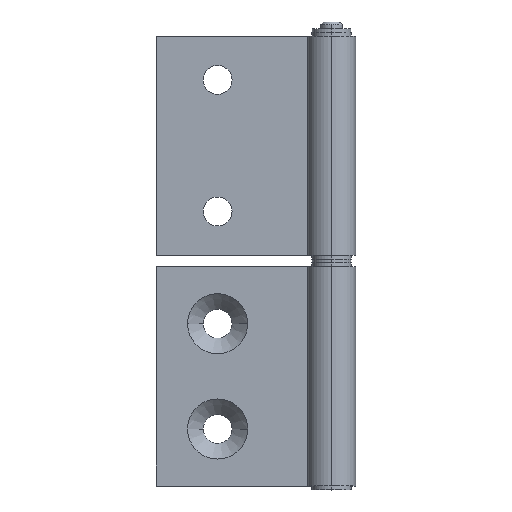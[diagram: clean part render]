
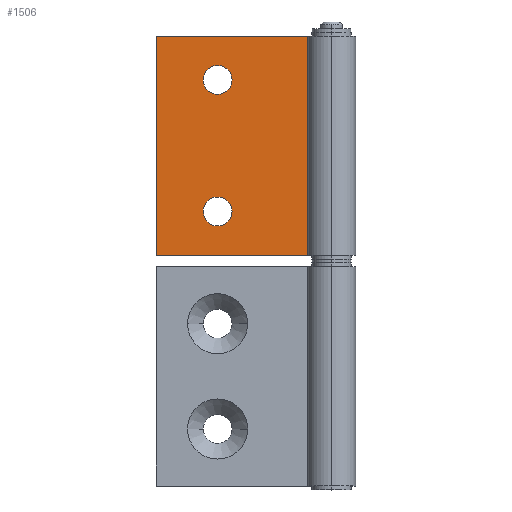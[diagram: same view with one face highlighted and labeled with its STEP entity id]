
A CAD part, top view. The second image highlights one B-rep face of the part: STEP entity #1506.
In plain terms, the highlighted planar face has unit normal (0, 0, 1).
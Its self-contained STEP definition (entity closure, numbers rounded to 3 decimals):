
#13 = PLANE ( 'NONE',  #1313 ) ;
#37 = LINE ( 'NONE', #583, #1414 ) ;
#58 = CARTESIAN_POINT ( 'NONE',  ( 10.7, -40., 4.5 ) ) ;
#90 = LINE ( 'NONE', #867, #463 ) ;
#131 = LINE ( 'NONE', #510, #1231 ) ;
#145 = LINE ( 'NONE', #790, #831 ) ;
#170 = ORIENTED_EDGE ( 'NONE', *, *, #1062, .F. ) ;
#174 = EDGE_LOOP ( 'NONE', ( #862, #1072 ) ) ;
#189 = VERTEX_POINT ( 'NONE', #677 ) ;
#192 = CARTESIAN_POINT ( 'NONE',  ( 14., -10., 4.5 ) ) ;
#216 = ORIENTED_EDGE ( 'NONE', *, *, #306, .T. ) ;
#252 = EDGE_CURVE ( 'NONE', #189, #706, #556, .T. ) ;
#258 = DIRECTION ( 'NONE',  ( 0., 0., -1. ) ) ;
#272 = DIRECTION ( 'NONE',  ( -1., 0., 0. ) ) ;
#293 = DIRECTION ( 'NONE',  ( 0., 0., 1. ) ) ;
#306 = EDGE_CURVE ( 'NONE', #1412, #1511, #145, .T. ) ;
#308 = CARTESIAN_POINT ( 'NONE',  ( 17.3, -40., 4.5 ) ) ;
#346 = AXIS2_PLACEMENT_3D ( 'NONE', #1670, #1553, #409 ) ;
#361 = EDGE_CURVE ( 'NONE', #714, #1122, #37, .T. ) ;
#382 = CARTESIAN_POINT ( 'NONE',  ( 17.3, -10., 4.5 ) ) ;
#409 = DIRECTION ( 'NONE',  ( -1., 0., 0. ) ) ;
#431 = DIRECTION ( 'NONE',  ( -1., 0., 0. ) ) ;
#438 = VERTEX_POINT ( 'NONE', #308 ) ;
#452 = DIRECTION ( 'NONE',  ( -1., 0., 0. ) ) ;
#463 = VECTOR ( 'NONE', #1375, 1000. ) ;
#510 = CARTESIAN_POINT ( 'NONE',  ( 0., -50., 4.5 ) ) ;
#528 = CIRCLE ( 'NONE', #1106, 3.3 ) ;
#535 = DIRECTION ( 'NONE',  ( -1., 0., 0. ) ) ;
#556 = CIRCLE ( 'NONE', #1494, 3.3 ) ;
#560 = EDGE_LOOP ( 'NONE', ( #216, #170, #694, #1602 ) ) ;
#583 = CARTESIAN_POINT ( 'NONE',  ( 0., -50., 4.5 ) ) ;
#661 = FACE_BOUND ( 'NONE', #1040, .T. ) ;
#677 = CARTESIAN_POINT ( 'NONE',  ( 10.7, -10., 4.5 ) ) ;
#694 = ORIENTED_EDGE ( 'NONE', *, *, #361, .F. ) ;
#701 = DIRECTION ( 'NONE',  ( 0., 0., -1. ) ) ;
#706 = VERTEX_POINT ( 'NONE', #382 ) ;
#714 = VERTEX_POINT ( 'NONE', #1174 ) ;
#743 = EDGE_CURVE ( 'NONE', #438, #1660, #528, .T. ) ;
#790 = CARTESIAN_POINT ( 'NONE',  ( 0., 0., 4.5 ) ) ;
#814 = CARTESIAN_POINT ( 'NONE',  ( 14., -40., 4.5 ) ) ;
#831 = VECTOR ( 'NONE', #1478, 1000. ) ;
#862 = ORIENTED_EDGE ( 'NONE', *, *, #743, .T. ) ;
#867 = CARTESIAN_POINT ( 'NONE',  ( 34.592, -50., 4.5 ) ) ;
#882 = CARTESIAN_POINT ( 'NONE',  ( 34.592, 0., 4.5 ) ) ;
#921 = CARTESIAN_POINT ( 'NONE',  ( 14., -40., 4.5 ) ) ;
#926 = EDGE_CURVE ( 'NONE', #1660, #438, #1357, .T. ) ;
#961 = ORIENTED_EDGE ( 'NONE', *, *, #252, .T. ) ;
#1008 = EDGE_CURVE ( 'NONE', #714, #1412, #90, .T. ) ;
#1040 = EDGE_LOOP ( 'NONE', ( #1541, #961 ) ) ;
#1058 = AXIS2_PLACEMENT_3D ( 'NONE', #814, #1575, #431 ) ;
#1062 = EDGE_CURVE ( 'NONE', #1122, #1511, #131, .T. ) ;
#1072 = ORIENTED_EDGE ( 'NONE', *, *, #926, .T. ) ;
#1106 = AXIS2_PLACEMENT_3D ( 'NONE', #921, #258, #272 ) ;
#1122 = VERTEX_POINT ( 'NONE', #1426 ) ;
#1174 = CARTESIAN_POINT ( 'NONE',  ( 34.592, -50., 4.5 ) ) ;
#1190 = FACE_OUTER_BOUND ( 'NONE', #560, .T. ) ;
#1228 = DIRECTION ( 'NONE',  ( -1., 0., 0. ) ) ;
#1231 = VECTOR ( 'NONE', #1645, 1000. ) ;
#1313 = AXIS2_PLACEMENT_3D ( 'NONE', #1538, #293, #535 ) ;
#1321 = EDGE_CURVE ( 'NONE', #706, #189, #1665, .T. ) ;
#1357 = CIRCLE ( 'NONE', #1058, 3.3 ) ;
#1375 = DIRECTION ( 'NONE',  ( 0., 1., 0. ) ) ;
#1408 = CARTESIAN_POINT ( 'NONE',  ( 0., 0., 4.5 ) ) ;
#1412 = VERTEX_POINT ( 'NONE', #882 ) ;
#1414 = VECTOR ( 'NONE', #452, 1000. ) ;
#1425 = FACE_BOUND ( 'NONE', #174, .T. ) ;
#1426 = CARTESIAN_POINT ( 'NONE',  ( 0., -50., 4.5 ) ) ;
#1478 = DIRECTION ( 'NONE',  ( -1., 0., 0. ) ) ;
#1494 = AXIS2_PLACEMENT_3D ( 'NONE', #192, #701, #1228 ) ;
#1506 = ADVANCED_FACE ( 'NONE', ( #1425, #661, #1190 ), #13, .T. ) ;
#1511 = VERTEX_POINT ( 'NONE', #1408 ) ;
#1538 = CARTESIAN_POINT ( 'NONE',  ( 0., -50., 4.5 ) ) ;
#1541 = ORIENTED_EDGE ( 'NONE', *, *, #1321, .T. ) ;
#1553 = DIRECTION ( 'NONE',  ( 0., 0., -1. ) ) ;
#1575 = DIRECTION ( 'NONE',  ( 0., 0., -1. ) ) ;
#1602 = ORIENTED_EDGE ( 'NONE', *, *, #1008, .T. ) ;
#1645 = DIRECTION ( 'NONE',  ( 0., 1., 0. ) ) ;
#1660 = VERTEX_POINT ( 'NONE', #58 ) ;
#1665 = CIRCLE ( 'NONE', #346, 3.3 ) ;
#1670 = CARTESIAN_POINT ( 'NONE',  ( 14., -10., 4.5 ) ) ;
